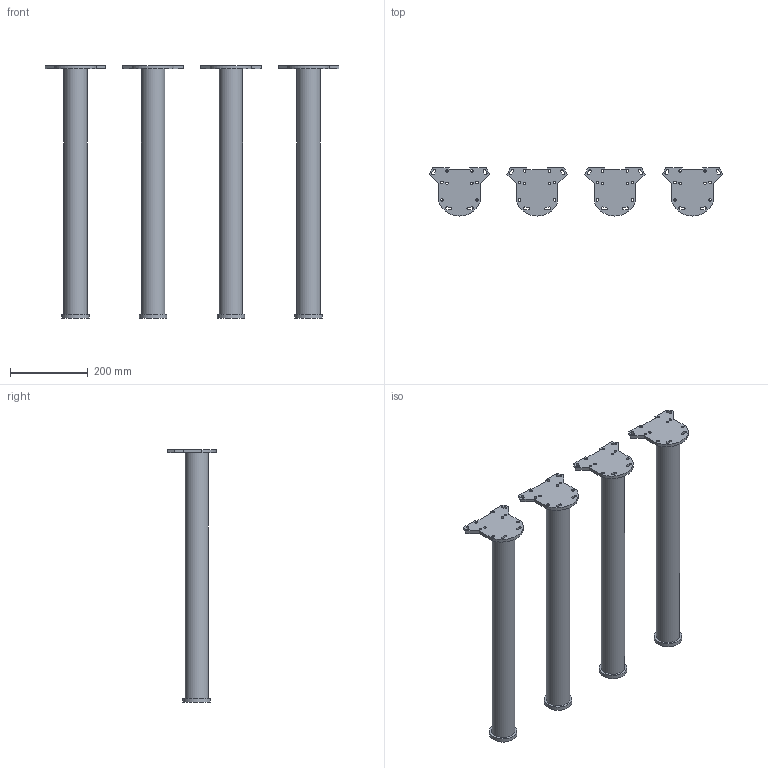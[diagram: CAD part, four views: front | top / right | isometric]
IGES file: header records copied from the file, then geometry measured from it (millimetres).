
Start section: Data from Parasolid IGES Translator 20.0.26, Copyright(c) 2006 Siemens P LM Software. All Rights Reserved.
Global section: file name: 70202.igs; native system: By Siemens PLM Incorporated; preprocessor: XPlus GENERIC/IGES 20.0.26; author: Noname; organization: Noname; date: 20210810.181527; units: millimetre
Bounding box: 755.69 x 124 x 650 mm (x, y, z)
Surface area: 619843.7 mm2 (no closed solid volume)
Topology: 0 solids, 0 shells, 184 faces, 1008 edges, 944 vertices
Faces by surface type: revolution 92, extrusion 92
